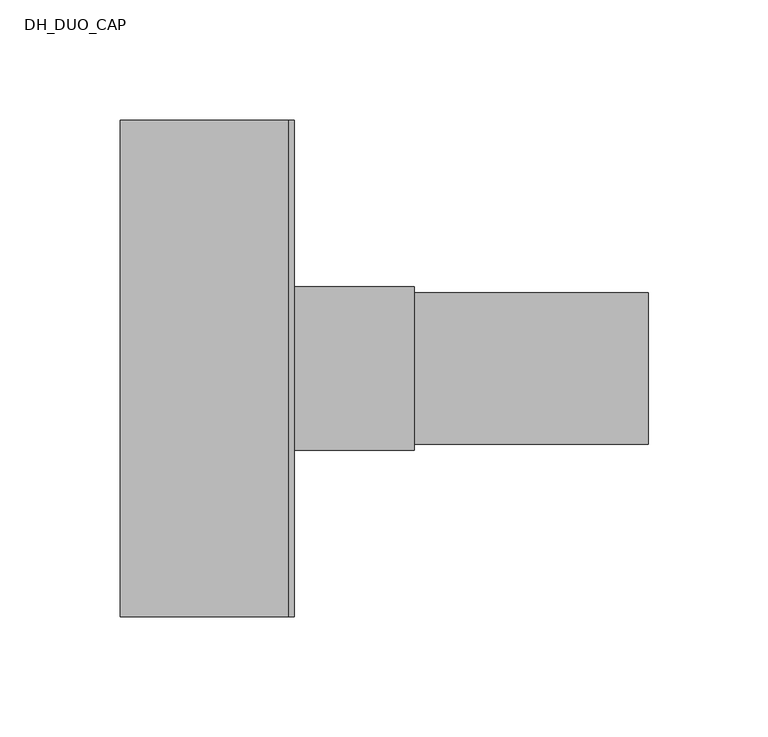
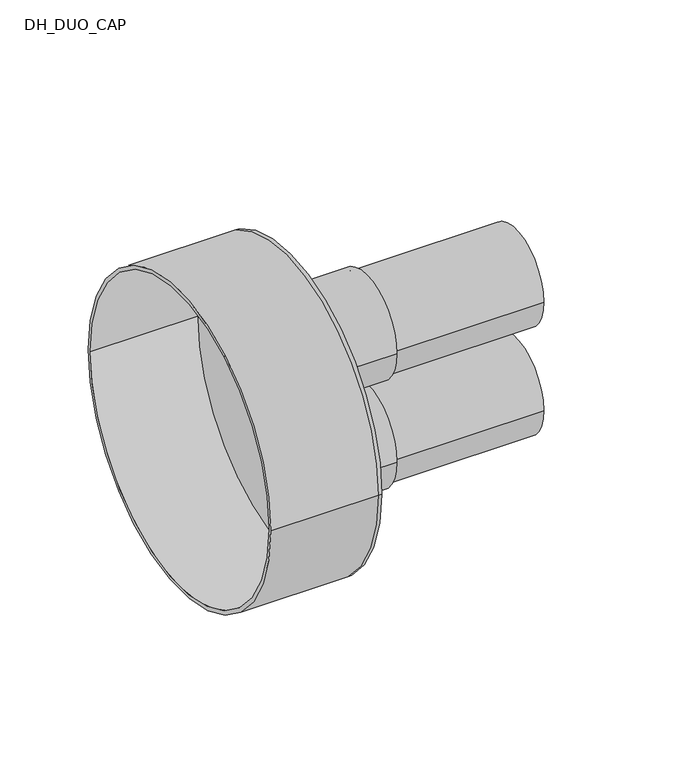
"""IFC4 building model written with IfcOpenShell, lengths in millimetres: pipe fitting geometry, DH_DUO_CAP : RAUTHERMEX DUO + 11 Heating - Rubber Cap."""

from ifc_helpers import new_model, si_unit, point, frame, frame_2d, origin, place, context, project, spatial, polyline, circle_curve, trimmed, segment, composite_curve, outline, extrude, source, transform, mapped, element, save
from ifc_brep_helpers import plane_surface, cylinder_surface, revolved_surface, advanced_brep


def dh_duo_cap_54e0e9d7(model_context):
    return source(origin(), model_context, "Body", "SolidModel", [
        extrude(outline(composite_curve([segment(trimmed(circle_curve(frame_2d((0.0, -37.5)), 31.5), [point((-31.5, -37.5))], [point((31.5, -37.5))], False, "CARTESIAN"), True, "CONTINUOUS"), segment(trimmed(circle_curve(frame_2d((0.0, -37.5)), 31.5), [point((31.5, -37.5))], [point((-31.5, -37.5))], False, "CARTESIAN"), True, "CONTINUOUS")], self_intersect=False), holes=[composite_curve([segment(trimmed(circle_curve(frame_2d((0.0, -37.5)), 25.7), [point((-25.7, -37.5))], [point((25.7, -37.5))], True, "CARTESIAN"), True, "CONTINUOUS"), segment(trimmed(circle_curve(frame_2d((0.0, -37.5)), 25.7), [point((25.7, -37.5))], [point((-25.7, -37.5))], True, "CARTESIAN"), True, "CONTINUOUS")], self_intersect=False)]), frame((0.0, 0.0, 0.0), z_axis=(1.0, 0.0, 0.0), x_axis=(0.0, 1.0, 0.0)), (0.0, 0.0, 1.0), 150.0),
        extrude(outline(composite_curve([segment(trimmed(circle_curve(frame_2d((0.0, 37.5)), 31.5), [point((-31.5, 37.5))], [point((31.5, 37.5))], False, "CARTESIAN"), True, "CONTINUOUS"), segment(trimmed(circle_curve(frame_2d((0.0, 37.5)), 31.5), [point((31.5, 37.5))], [point((-31.5, 37.5))], False, "CARTESIAN"), True, "CONTINUOUS")], self_intersect=False), holes=[composite_curve([segment(trimmed(circle_curve(frame_2d((0.0, 37.5)), 25.7), [point((-25.7, 37.5))], [point((25.7, 37.5))], True, "CARTESIAN"), True, "CONTINUOUS"), segment(trimmed(circle_curve(frame_2d((0.0, 37.5)), 25.7), [point((25.7, 37.5))], [point((-25.7, 37.5))], True, "CARTESIAN"), True, "CONTINUOUS")], self_intersect=False)]), frame((0.0, 0.0, 0.0), z_axis=(1.0, 0.0, 0.0), x_axis=(0.0, 1.0, 0.0)), (0.0, 0.0, 1.0), 150.0),
        advanced_brep(
        [(-70.0, -103.5, 0.0), (-70.0, 103.5, 0.0), (-70.0, -101.0, 0.0), (-70.0, 101.0, 0.0), (0.0, -101.0, 0.0), (0.0, 101.0, 0.0), (0.0, -103.5, 0.0), (0.0, 103.5, 0.0), (0.0, 31.5, 37.5), (0.0, -31.5, 37.5), (0.0, 31.5, -37.5), (0.0, -31.5, -37.5), (2.5, -103.5, 0.0), (2.5, 103.5, 0.0), (2.5, -31.5, 37.5), (2.5, 31.5, 37.5), (2.5, -31.5, -37.5), (2.5, 31.5, -37.5)],
        [
            (0, 1, circle_curve(frame((-70.0, 0.0, 0.0), z_axis=(-1.0, 0.0, 0.0), x_axis=(0.0, 1.0, 0.0)), 103.5)),
            (1, 0, circle_curve(frame((-70.0, 0.0, 0.0), z_axis=(-1.0, 0.0, 0.0), x_axis=(0.0, 1.0, 0.0)), 103.5)),
            (2, 3, circle_curve(frame((-70.0, 0.0, 0.0), z_axis=(1.0, 0.0, 0.0), x_axis=(0.0, 1.0, 0.0)), 101.0)),
            (3, 2, circle_curve(frame((-70.0, 0.0, 0.0), z_axis=(1.0, 0.0, 0.0), x_axis=(0.0, 1.0, 0.0)), 101.0)),
            (2, 4),
            (4, 5, circle_curve(frame((0.0, 0.0, 0.0), z_axis=(1.0, 0.0, 0.0), x_axis=(0.0, 1.0, 0.0)), 101.0)),
            (5, 3),
            (5, 4, circle_curve(frame((0.0, 0.0, 0.0), z_axis=(1.0, 0.0, 0.0), x_axis=(0.0, 1.0, 0.0)), 101.0)),
            (0, 6),
            (6, 7, circle_curve(frame((0.0, 0.0, 0.0), z_axis=(-1.0, 0.0, 0.0), x_axis=(0.0, 1.0, 0.0)), 103.5)),
            (7, 1),
            (7, 6, circle_curve(frame((0.0, 0.0, 0.0), z_axis=(-1.0, 0.0, 0.0), x_axis=(0.0, 1.0, 0.0)), 103.5)),
            (8, 9, circle_curve(frame((0.0, 0.0, 37.5), z_axis=(1.0, 0.0, 0.0), x_axis=(0.0, 1.0, 0.0)), 31.5)),
            (9, 8, circle_curve(frame((0.0, 0.0, 37.5), z_axis=(1.0, 0.0, 0.0), x_axis=(0.0, 1.0, 0.0)), 31.5)),
            (10, 11, circle_curve(frame((0.0, 0.0, -37.5), z_axis=(1.0, 0.0, 0.0), x_axis=(0.0, 1.0, 0.0)), 31.5)),
            (11, 10, circle_curve(frame((0.0, 0.0, -37.5), z_axis=(1.0, 0.0, 0.0), x_axis=(0.0, 1.0, 0.0)), 31.5)),
            (12, 13, circle_curve(frame((2.5, 0.0, 0.0), z_axis=(1.0, 0.0, 0.0), x_axis=(0.0, 1.0, 0.0)), 103.5)),
            (13, 12, circle_curve(frame((2.5, 0.0, 0.0), z_axis=(1.0, 0.0, 0.0), x_axis=(0.0, 1.0, 0.0)), 103.5)),
            (14, 15, circle_curve(frame((2.5, 0.0, 37.5), z_axis=(-1.0, 0.0, 0.0), x_axis=(0.0, 1.0, 0.0)), 31.5)),
            (15, 14, circle_curve(frame((2.5, 0.0, 37.5), z_axis=(-1.0, 0.0, 0.0), x_axis=(0.0, 1.0, 0.0)), 31.5)),
            (16, 17, circle_curve(frame((2.5, 0.0, -37.5), z_axis=(-1.0, 0.0, 0.0), x_axis=(0.0, 1.0, 0.0)), 31.5)),
            (17, 16, circle_curve(frame((2.5, 0.0, -37.5), z_axis=(-1.0, 0.0, 0.0), x_axis=(0.0, 1.0, 0.0)), 31.5)),
            (13, 7),
            (6, 12),
            (8, 15),
            (14, 9),
            (10, 17),
            (16, 11),
        ],
        [
            plane_surface(frame((-70.0, 0.0, 0.0), z_axis=(-1.0, 0.0, 0.0), x_axis=(0.0, 0.0, 1.0))),
            revolved_surface(polyline([(0.0, 101.0, 0.0), (-70.0, 101.0, 0.0)]), (-70.0, 0.0, 0.0), (1.0, 0.0, 0.0)),
            cylinder_surface(frame((-70.0, 0.0, 0.0), z_axis=(-1.0, 0.0, 0.0), x_axis=(0.0, 1.0, 0.0)), 103.5),
            plane_surface(frame((0.0, 0.0, 0.0), z_axis=(-1.0, 0.0, 0.0), x_axis=(0.0, 0.0, 1.0))),
            plane_surface(frame((2.5, 0.0, 0.0), z_axis=(1.0, 0.0, 0.0), x_axis=(0.0, 0.0, 1.0))),
            cylinder_surface(frame((0.0, 0.0, 0.0), z_axis=(-1.0, 0.0, 0.0), x_axis=(0.0, 1.0, 0.0)), 103.5),
            revolved_surface(polyline([(0.0, 31.5, 37.5), (2.5, 31.5, 37.5)]), (0.0, 0.0, 37.5), (-1.0, 0.0, 0.0)),
            revolved_surface(polyline([(0.0, 31.5, -37.5), (2.5, 31.5, -37.5)]), (0.0, 0.0, -37.5), (-1.0, 0.0, 0.0)),
        ],
        [
            (0, [[1, 2], [3, 4]]),
            (1, [[-3, 5, 6, 7]]),
            (1, [[-4, -7, 8, -5]]),
            (2, [[-1, 9, 10, 11]]),
            (2, [[-2, -11, 12, -9]]),
            (3, [[-6, -8], [13, 14], [15, 16]]),
            (4, [[17, 18], [19, 20], [21, 22]]),
            (5, [[-18, 23, -10, 24]]),
            (5, [[-17, -24, -12, -23]]),
            (6, [[25, -19, 26, -13]]),
            (6, [[-25, -14, -26, -20]]),
            (7, [[27, -21, 28, -15]]),
            (7, [[-27, -16, -28, -22]]),
        ],
    ),
        extrude(outline(composite_curve([segment(trimmed(circle_curve(frame_2d((0.0, -37.5)), 34.0), [point((-34.0, -37.5))], [point((34.0, -37.5))], False, "CARTESIAN"), True, "CONTINUOUS"), segment(trimmed(circle_curve(frame_2d((0.0, -37.5)), 34.0), [point((34.0, -37.5))], [point((-34.0, -37.5))], False, "CARTESIAN"), True, "CONTINUOUS")], self_intersect=False), holes=[composite_curve([segment(trimmed(circle_curve(frame_2d((0.0, -37.5)), 31.5), [point((-31.5, -37.5))], [point((31.5, -37.5))], True, "CARTESIAN"), True, "CONTINUOUS"), segment(trimmed(circle_curve(frame_2d((0.0, -37.5)), 31.5), [point((31.5, -37.5))], [point((-31.5, -37.5))], True, "CARTESIAN"), True, "CONTINUOUS")], self_intersect=False)]), frame((2.5, 0.0, 0.0), z_axis=(1.0, 0.0, 0.0), x_axis=(0.0, 1.0, 0.0)), (0.0, 0.0, 1.0), 50.0),
        extrude(outline(composite_curve([segment(trimmed(circle_curve(frame_2d((0.0, 37.5)), 34.0), [point((-34.0, 37.5))], [point((34.0, 37.5))], False, "CARTESIAN"), True, "CONTINUOUS"), segment(trimmed(circle_curve(frame_2d((0.0, 37.5)), 34.0), [point((34.0, 37.5))], [point((-34.0, 37.5))], False, "CARTESIAN"), True, "CONTINUOUS")], self_intersect=False), holes=[composite_curve([segment(trimmed(circle_curve(frame_2d((0.0, 37.5)), 31.5), [point((-31.5, 37.5))], [point((31.5, 37.5))], True, "CARTESIAN"), True, "CONTINUOUS"), segment(trimmed(circle_curve(frame_2d((0.0, 37.5)), 31.5), [point((31.5, 37.5))], [point((-31.5, 37.5))], True, "CARTESIAN"), True, "CONTINUOUS")], self_intersect=False)]), frame((2.5, 0.0, 0.0), z_axis=(1.0, 0.0, 0.0), x_axis=(0.0, 1.0, 0.0)), (0.0, 0.0, 1.0), 50.0),
    ])


if __name__ == "__main__":
    model = new_model("IFC4")
    model_context = context("Model", 3, world=origin())
    ifc_project = project(units=[si_unit("LENGTHUNIT", "METRE", prefix="MILLI")], contexts=[model_context])
    site = spatial("IfcSite", under=ifc_project)
    building = spatial("IfcBuilding", under=site)
    placement = place(None, origin())
    dh_duo_cap_shape = dh_duo_cap_54e0e9d7(model_context)
    element("IfcPipeFitting", 1, ObjectType="DH_DUO_CAP : RAUTHERMEX DUO + 11 Heating - Rubber Cap", at=placement, inside=building, context=model_context, shape_type="MappedRepresentation", body=[
        mapped(dh_duo_cap_shape, transform((0.0, 0.0, 0.0), x_axis=(1.0, 0.0, 0.0), y_axis=(0.0, 1.0, 0.0), z_axis=(0.0, 0.0, 1.0))),
    ])
    save(model, "model.ifc")
